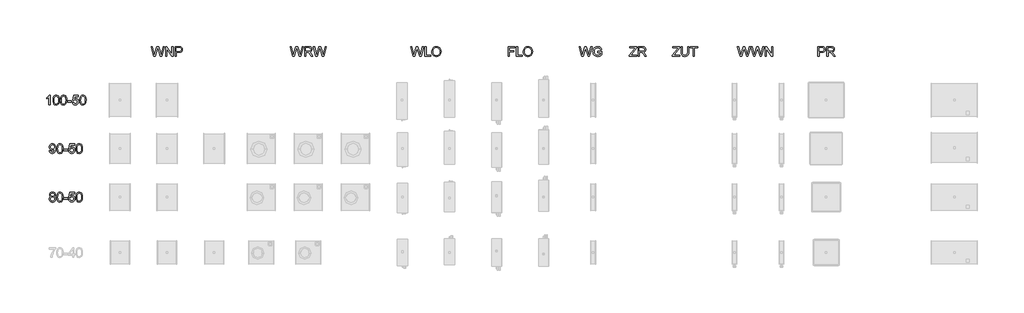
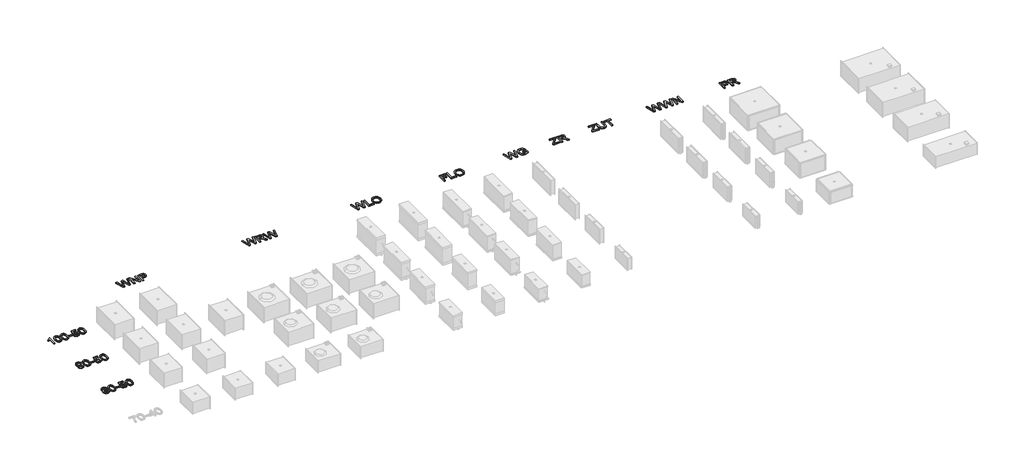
# One storey, part 6 of 9: 12 proxies.
"""IFC4 building model written with IfcOpenShell, lengths in millimetres."""

from ifc_helpers import new_model, si_unit, origin, origin_with_axes, place, context, project, spatial, polyline, outline, extrude, element, save

model = new_model("IFC4")

# Units and contexts
model_context = context("Model", 3, world=origin())
ifc_project = project(units=[si_unit("LENGTHUNIT", "METRE", prefix="MILLI")], contexts=[model_context])

# Site, building, storey
site = spatial("IfcSite", under=ifc_project)
building = spatial("IfcBuilding", under=site)
storey = spatial("IfcBuildingStorey", under=building, Name="KORF_Уровень 1", Elevation=0.0)

# Proxies
placement = place(None, origin())
element("IfcBuildingElementProxy", 1, Name="Текст модели 1", ObjectType="Текст модели 1", at=placement, inside=storey, context=model_context, shape_type="SweptSolid", body=[
    extrude(outline(polyline([(-8400.5805728, -4242.5702672), (-8482.7654105, -3941.2013368), (-8443.9170718, -3941.2013368), (-8396.2395653, -4139.269003), (-8381.5242855, -4200.4109906), (-8365.7789361, -4146.3323373), (-8306.0349001, -3941.2013368), (-8250.0432604, -3941.2013368), (-8206.633185, -4089.8992392), (-8188.0367501, -4145.0815385), (-8174.3331458, -4200.4109906), (-8160.0593244, -4141.0348365), (-8111.9403594, -3941.2013368), (-8073.0920207, -3941.2013368), (-8155.3504348, -4242.5702672), (-8195.5967251, -4242.5702672), (-8267.848749, -4010.0688463), (-8277.9287156, -3977.6216543), (-8289.2594811, -4016.6907222), (-8355.1103582, -4242.5702672), (-8400.5805728, -4242.5702672)])), origin_with_axes(), (0.0, 0.0, 1.0), 30.0),
    extrude(outline(polyline([(-8035.4209044, -4242.5702672), (-8035.4209044, -3941.2013368), (-7995.1010377, -3941.2013368), (-7837.6475438, -4179.9567516), (-7837.6475438, -3941.2013368), (-7799.9764275, -3941.2013368), (-7799.9764275, -4242.5702672), (-7840.2962942, -4242.5702672), (-7997.7497881, -4003.7412759), (-7997.7497881, -4242.5702672), (-8035.4209044, -4242.5702672)])), origin_with_axes(), (0.0, 0.0, 1.0), 30.0),
    extrude(outline(polyline([(-7734.051974, -4242.5702672), (-7734.051974, -3941.2013368), (-7622.3630002, -3941.2013368), (-7577.334244, -3944.0708163), (-7557.2570841, -3949.4326964), (-7540.7299855, -3958.1606967), (-7527.4218543, -3970.6502905), (-7517.0015968, -3987.2969508), (-7510.2693563, -4006.9326523), (-7508.0252761, -4028.3893696), (-7509.5404901, -4046.8892355), (-7514.086132, -4063.9083763), (-7521.6622018, -4079.446792), (-7532.2686996, -4093.5044828), (-7546.8299288, -4105.157145), (-7566.270193, -4113.4804751), (-7590.5894921, -4118.4744732), (-7619.7878263, -4120.1391392), (-7696.3808576, -4120.1391392), (-7696.3808576, -4242.5702672), (-7734.051974, -4242.5702672)]), holes=[polyline([(-7696.3808576, -4082.4680229), (-7617.5805343, -4082.4680229), (-7584.1768491, -4079.0099322), (-7562.1039294, -4068.6356599), (-7549.7982767, -4051.9889996), (-7545.6963924, -4029.7137448), (-7548.1152165, -4012.791173), (-7555.3716889, -3998.5173516), (-7566.5644986, -3987.7751974), (-7580.7923348, -3981.447627), (-7618.4634511, -3978.8724531), (-7696.3808576, -3978.8724531), (-7696.3808576, -4082.4680229)])]), origin_with_axes(), (0.0, 0.0, 1.0), 30.0),
])
element("IfcBuildingElementProxy", 2, Name="Текст модели 1", ObjectType="Текст модели 1", at=placement, inside=storey, context=model_context, shape_type="SweptSolid", body=[
    extrude(outline(polyline([(-4064.056761, -4242.5702672), (-4146.2415987, -3941.2013368), (-4107.39326, -3941.2013368), (-4059.7157534, -4139.269003), (-4045.0004736, -4200.4109906), (-4029.2551242, -4146.3323373), (-3969.5110882, -3941.2013368), (-3913.5194486, -3941.2013368), (-3870.1093731, -4089.8992392), (-3851.5129383, -4145.0815385), (-3837.809334, -4200.4109906), (-3823.5355125, -4141.0348365), (-3775.4165476, -3941.2013368), (-3736.5682089, -3941.2013368), (-3818.826623, -4242.5702672), (-3859.0729133, -4242.5702672), (-3931.3249371, -4010.0688463), (-3941.4049038, -3977.6216543), (-3952.7356692, -4016.6907222), (-4018.5865464, -4242.5702672), (-4064.056761, -4242.5702672)])), origin_with_axes(), (0.0, 0.0, 1.0), 30.0),
    extrude(outline(polyline([(-3698.8970926, -4242.5702672), (-3698.8970926, -3941.2013368), (-3569.0347483, -3941.2013368), (-3534.131944, -3943.2338848), (-3508.7388893, -3949.3315289), (-3490.1792426, -3960.5887179), (-3475.7766625, -3978.0999009), (-3466.5336274, -3999.8141356), (-3463.4526157, -4023.6804801), (-3468.5569783, -4053.3685571), (-3483.8700664, -4077.9798626), (-3495.4698456, -4088.0092455), (-3509.8517323, -4096.0244744), (-3546.9618286, -4106.0124706), (-3525.5510964, -4122.125702), (-3495.0168908, -4160.9004643), (-3444.7642103, -4242.5702672), (-3488.5421677, -4242.5702672), (-3527.7583884, -4180.1039044), (-3556.085302, -4138.7539682), (-3575.987718, -4119.2194342), (-3593.9035712, -4112.0457353), (-3615.7557617, -4110.7213601), (-3661.2259763, -4110.7213601), (-3661.2259763, -4242.5702672), (-3698.8970926, -4242.5702672)]), holes=[polyline([(-3661.2259763, -4073.0502438), (-3576.907423, -4073.0502438), (-3552.6915906, -4071.7166716), (-3533.9020177, -4067.7159549), (-3519.756955, -4060.7813793), (-3509.4746533, -4050.6462303), (-3503.2114623, -4038.3865628), (-3501.123732, -4025.0784317), (-3505.1060546, -4006.702726), (-3517.0530224, -3991.8954757), (-3537.6084288, -3982.1282087), (-3567.4160675, -3978.8724531), (-3661.2259763, -3978.8724531), (-3661.2259763, -4073.0502438)])]), origin_with_axes(), (0.0, 0.0, 1.0), 30.0),
    extrude(outline(polyline([(-3343.5966616, -4242.5702672), (-3425.7814994, -3941.2013368), (-3386.9331607, -3941.2013368), (-3339.2556541, -4139.269003), (-3324.5403743, -4200.4109906), (-3308.7950249, -4146.3323373), (-3249.0509889, -3941.2013368), (-3193.0593492, -3941.2013368), (-3149.6492738, -4089.8992392), (-3131.0528389, -4145.0815385), (-3117.3492346, -4200.4109906), (-3103.0754132, -4141.0348365), (-3054.9564482, -3941.2013368), (-3016.1081095, -3941.2013368), (-3098.3665236, -4242.5702672), (-3138.6128139, -4242.5702672), (-3210.8648378, -4010.0688463), (-3220.9448044, -3977.6216543), (-3232.2755699, -4016.6907222), (-3298.126447, -4242.5702672), (-3343.5966616, -4242.5702672)])), origin_with_axes(), (0.0, 0.0, 1.0), 30.0),
])
element("IfcBuildingElementProxy", 3, Name="Текст модели 1", ObjectType="Текст модели 1", at=placement, inside=storey, context=model_context, shape_type="SweptSolid", body=[
    extrude(outline(polyline([(-11635.0267426, -5756.5510747), (-11672.6978589, -5756.5510747), (-11672.6978589, -5521.695209), (-11708.3824125, -5547.1158549), (-11748.0400915, -5566.135354), (-11748.0400915, -5530.5243769), (-11718.4531821, -5514.4295396), (-11692.8210041, -5495.2812817), (-11672.6150855, -5474.9190133), (-11659.3069543, -5455.1821443), (-11635.0267426, -5455.1821443), (-11635.0267426, -5756.5510747)])), origin_with_axes(), (0.0, 0.0, 1.0), 30.0),
    extrude(outline(polyline([(-11545.5578414, -5608.2946307), (-11542.7895294, -5560.056104), (-11534.4845933, -5521.5848444), (-11520.7258067, -5492.2922405), (-11501.595943, -5471.5896813), (-11476.9570463, -5459.2840285), (-11446.6711611, -5455.1821443), (-11423.4578072, -5457.6101654), (-11402.6724745, -5464.8942289), (-11385.2900502, -5476.7492262), (-11372.2854217, -5492.8900488), (-11362.4629724, -5513.1787408), (-11354.6270859, -5537.4773466), (-11349.4951321, -5568.3334489), (-11347.7844808, -5608.2946307), (-11350.5252016, -5656.2572458), (-11358.7473642, -5694.6365349), (-11372.4233774, -5723.9567299), (-11391.52565, -5744.7420627), (-11416.2197289, -5757.1304889), (-11446.6711611, -5761.2599643), (-11467.4197056, -5759.4665395), (-11485.8138054, -5754.0862653), (-11501.8534604, -5745.1191417), (-11515.5386706, -5732.5651686), (-11528.6720578, -5709.8714481), (-11538.0530487, -5681.5951182), (-11543.6816432, -5647.7361791), (-11545.5578414, -5608.2946307)]), holes=[polyline([(-11507.8867251, -5608.2210543), (-11503.4721411, -5667.4776466), (-11497.9539112, -5687.7456453), (-11490.2283893, -5701.7734456), (-11470.5099144, -5718.1349974), (-11446.6711611, -5723.5888479), (-11422.8324078, -5718.1166033), (-11403.1139329, -5701.6998692), (-11395.388411, -5687.6490763), (-11389.870181, -5667.3856761), (-11385.4555971, -5608.2210543), (-11389.7230282, -5550.2980341), (-11395.0573172, -5530.0967141), (-11402.5253217, -5515.7355207), (-11422.2070084, -5498.5738256), (-11447.1126195, -5492.8532606), (-11470.6938554, -5497.8932439), (-11489.6397781, -5513.0131939), (-11497.6228174, -5528.6481787), (-11503.3249883, -5549.727817), (-11507.8867251, -5608.2210543)])]), origin_with_axes(), (0.0, 0.0, 1.0), 30.0),
    extrude(outline(polyline([(-11314.822254, -5608.2946307), (-11312.053942, -5560.056104), (-11303.749006, -5521.5848444), (-11289.9902193, -5492.2922405), (-11270.8603556, -5471.5896813), (-11246.221459, -5459.2840285), (-11215.9355737, -5455.1821443), (-11192.7222198, -5457.6101654), (-11171.9368871, -5464.8942289), (-11154.5544628, -5476.7492262), (-11141.5498343, -5492.8900488), (-11131.727385, -5513.1787408), (-11123.8914985, -5537.4773466), (-11118.7595447, -5568.3334489), (-11117.0488934, -5608.2946307), (-11119.7896143, -5656.2572458), (-11128.0117769, -5694.6365349), (-11141.68779, -5723.9567299), (-11160.7900626, -5744.7420627), (-11185.4841416, -5757.1304889), (-11215.9355737, -5761.2599643), (-11236.6841182, -5759.4665395), (-11255.078218, -5754.0862653), (-11271.117873, -5745.1191417), (-11284.8030832, -5732.5651686), (-11297.9364704, -5709.8714481), (-11307.3174613, -5681.5951182), (-11312.9460558, -5647.7361791), (-11314.822254, -5608.2946307)]), holes=[polyline([(-11277.1511377, -5608.2210543), (-11272.7365538, -5667.4776466), (-11267.2183238, -5687.7456453), (-11259.4928019, -5701.7734456), (-11239.774327, -5718.1349974), (-11215.9355737, -5723.5888479), (-11192.0968204, -5718.1166033), (-11172.3783455, -5701.6998692), (-11164.6528236, -5687.6490763), (-11159.1345937, -5667.3856761), (-11154.7200097, -5608.2210543), (-11158.9874409, -5550.2980341), (-11164.3217298, -5530.0967141), (-11171.7897343, -5515.7355207), (-11191.471421, -5498.5738256), (-11216.3770321, -5492.8532606), (-11239.958268, -5497.8932439), (-11258.9041907, -5513.0131939), (-11266.88723, -5528.6481787), (-11272.589401, -5549.727817), (-11277.1511377, -5608.2210543)])]), origin_with_axes(), (0.0, 0.0, 1.0), 30.0),
    extrude(outline(polyline([(-11093.5044457, -5667.0821735), (-11093.5044457, -5629.4110572), (-10975.7822073, -5629.4110572), (-10975.7822073, -5667.0821735), (-11093.5044457, -5667.0821735)])), origin_with_axes(), (0.0, 0.0, 1.0), 30.0),
    extrude(outline(polyline([(-10942.8199805, -5676.4999526), (-10905.1488642, -5671.791063), (-10898.2326827, -5694.4066087), (-10886.1661532, -5710.6026135), (-10869.0044582, -5720.3422893), (-10846.8027798, -5723.5888479), (-10819.8002413, -5719.0730965), (-10799.5667316, -5705.525842), (-10786.929985, -5684.510583), (-10782.7177362, -5657.590818), (-10786.6632706, -5632.2437485), (-10798.4998738, -5612.8563674), (-10818.3195163, -5600.5507147), (-10846.2141686, -5596.4488304), (-10864.4887067, -5598.0859053), (-10879.2867599, -5602.9971299), (-10900.4399746, -5619.9932781), (-10938.111091, -5615.2843886), (-10905.1488642, -5459.8910338), (-10759.1732885, -5459.8910338), (-10759.1732885, -5497.5621501), (-10874.688235, -5497.5621501), (-10890.8014664, -5580.5563282), (-10863.8908984, -5564.2223676), (-10835.6927435, -5558.7777141), (-10817.3469283, -5560.4653728), (-10800.4956336, -5565.5283487), (-10785.1388596, -5573.966642), (-10771.2766061, -5585.7802526), (-10759.8009872, -5600.247212), (-10751.6041164, -5616.645552), (-10746.685994, -5634.9752724), (-10745.0466199, -5655.2363732), (-10750.9511259, -5692.9074896), (-10758.3317584, -5709.7013026), (-10768.664644, -5725.1339523), (-10784.3180229, -5740.9390825), (-10802.5833639, -5752.2284613), (-10823.4606672, -5759.0020885), (-10846.9499325, -5761.2599643), (-10883.9496642, -5755.4566258), (-10899.628335, -5748.2024527), (-10913.4262091, -5738.0466104), (-10924.9064266, -5725.4949365), (-10933.6321277, -5711.053269), (-10942.8199805, -5676.4999526)])), origin_with_axes(), (0.0, 0.0, 1.0), 30.0),
    extrude(outline(polyline([(-10712.0843931, -5608.2946307), (-10709.3160811, -5560.056104), (-10701.0111451, -5521.5848444), (-10687.2523584, -5492.2922405), (-10668.1224947, -5471.5896813), (-10643.4835981, -5459.2840285), (-10613.1977128, -5455.1821443), (-10589.9843589, -5457.6101654), (-10569.1990262, -5464.8942289), (-10551.8166019, -5476.7492262), (-10538.8119734, -5492.8900488), (-10528.9895241, -5513.1787408), (-10521.1536376, -5537.4773466), (-10516.0216838, -5568.3334489), (-10514.3110325, -5608.2946307), (-10517.0517534, -5656.2572458), (-10525.273916, -5694.6365349), (-10538.9499291, -5723.9567299), (-10558.0522017, -5744.7420627), (-10582.7462807, -5757.1304889), (-10613.1977128, -5761.2599643), (-10633.9462573, -5759.4665395), (-10652.3403571, -5754.0862653), (-10668.3800121, -5745.1191417), (-10682.0652223, -5732.5651686), (-10695.1986095, -5709.8714481), (-10704.5796004, -5681.5951182), (-10710.2081949, -5647.7361791), (-10712.0843931, -5608.2946307)]), holes=[polyline([(-10674.4132768, -5608.2210543), (-10669.9986929, -5667.4776466), (-10664.4804629, -5687.7456453), (-10656.754941, -5701.7734456), (-10637.0364661, -5718.1349974), (-10613.1977128, -5723.5888479), (-10589.3589595, -5718.1166033), (-10569.6404846, -5701.6998692), (-10561.9149627, -5687.6490763), (-10556.3967328, -5667.3856761), (-10551.9821488, -5608.2210543), (-10556.24958, -5550.2980341), (-10561.5838689, -5530.0967141), (-10569.0518734, -5515.7355207), (-10588.7335601, -5498.5738256), (-10613.6391712, -5492.8532606), (-10637.2204071, -5497.8932439), (-10656.1663299, -5513.0131939), (-10664.1493691, -5528.6481787), (-10669.8515401, -5549.727817), (-10674.4132768, -5608.2210543)])]), origin_with_axes(), (0.0, 0.0, 1.0), 30.0),
])
element("IfcBuildingElementProxy", 4, Name="Текст модели 1", ObjectType="Текст модели 1", at=placement, inside=storey, context=model_context, shape_type="SweptSolid", body=[
    extrude(outline(polyline([(-11656.2167455, -7195.1896496), (-11618.5456292, -7190.4807601), (-11612.1076943, -7211.863901), (-11601.6230575, -7226.422831), (-11587.349236, -7234.7829493), (-11569.5437475, -7237.5696554), (-11553.5684718, -7235.7762307), (-11539.0463301, -7230.3959565), (-11526.9798006, -7222.0174441), (-11518.3713619, -7211.2293046), (-11506.0473151, -7178.487807), (-11500.6026616, -7134.783426), (-11500.8233908, -7127.4257861), (-11513.8740046, -7143.3550765), (-11530.9529262, -7155.9734289), (-11550.827751, -7164.1955915), (-11572.2660742, -7166.9363124), (-11590.161234, -7165.2624493), (-11606.6170555, -7160.2408601), (-11621.6335387, -7151.8715447), (-11635.2106836, -7140.1545031), (-11646.4609749, -7125.7013392), (-11654.4968972, -7109.1236568), (-11659.3184506, -7090.4214559), (-11660.9256351, -7069.5947365), (-11659.2402757, -7048.0736397), (-11654.1841975, -7028.759835), (-11645.7574006, -7011.6533222), (-11633.9598848, -6996.7541014), (-11619.6239833, -6984.6829734), (-11603.5820291, -6976.0607392), (-11585.8340221, -6970.8873986), (-11566.3799623, -6969.1629518), (-11538.2829749, -6973.0992891), (-11512.7059792, -6984.9083012), (-11491.3136412, -7004.0013767), (-11475.7706269, -7029.7899046), (-11466.3068626, -7065.4376699), (-11463.1522745, -7114.1084579), (-11466.2976655, -7165.7131047), (-11475.7338387, -7205.6007101), (-11491.3780206, -7235.5738956), (-11513.1474376, -7257.4352832), (-11540.1039908, -7270.7893996), (-11571.3095811, -7275.2407718), (-11603.5176497, -7269.9892563), (-11629.2142071, -7254.2347098), (-11647.1852426, -7228.9704138), (-11656.2167455, -7195.1896496)]), holes=[polyline([(-11500.8233908, -7068.7118197), (-11504.8884868, -7043.1808092), (-11517.083775, -7023.5359107), (-11536.0113036, -7011.0095287), (-11560.2731212, -7006.8340681), (-11585.4362497, -7011.3314255), (-11605.596183, -7024.8234976), (-11618.8399348, -7045.4708746), (-11623.2545188, -7071.4341464), (-11619.0790581, -7094.7118797), (-11606.5526762, -7113.1887529), (-11586.8893835, -7125.2460853), (-11561.3031908, -7129.2651961), (-11537.2345112, -7125.2460853), (-11517.8563272, -7113.1887529), (-11505.0816249, -7094.031298), (-11500.8233908, -7068.7118197)])]), origin_with_axes(), (0.0, 0.0, 1.0), 30.0),
    extrude(outline(polyline([(-11430.1900477, -7122.2754382), (-11427.4217357, -7074.0369115), (-11419.1167996, -7035.5656519), (-11405.358013, -7006.273048), (-11386.2281493, -6985.5704888), (-11361.5892527, -6973.264836), (-11331.3033674, -6969.1629518), (-11308.0900135, -6971.5909729), (-11287.3046808, -6978.8750364), (-11269.9222565, -6990.7300337), (-11256.917628, -7006.8708563), (-11247.0951787, -7027.1595483), (-11239.2592922, -7051.4581541), (-11234.1273384, -7082.3142564), (-11232.4166871, -7122.2754382), (-11235.157408, -7170.2380533), (-11243.3795706, -7208.6173424), (-11257.0555837, -7237.9375374), (-11276.1578563, -7258.7228702), (-11300.8519352, -7271.1112964), (-11331.3033674, -7275.2407718), (-11352.0519119, -7273.447347), (-11370.4460117, -7268.0670728), (-11386.4856667, -7259.0999492), (-11400.1708769, -7246.5459761), (-11413.3042641, -7223.8522556), (-11422.685255, -7195.5759257), (-11428.3138495, -7161.7169866), (-11430.1900477, -7122.2754382)]), holes=[polyline([(-11392.5189314, -7122.2018618), (-11388.1043475, -7181.4584541), (-11382.5861175, -7201.7264528), (-11374.8605956, -7215.7542531), (-11355.1421207, -7232.1158049), (-11331.3033674, -7237.5696554), (-11307.4646141, -7232.0974108), (-11287.7461392, -7215.6806767), (-11280.0206173, -7201.6298838), (-11274.5023873, -7181.3664836), (-11270.0878034, -7122.2018618), (-11274.3552345, -7064.2788416), (-11279.6895235, -7044.0775216), (-11287.157528, -7029.7163282), (-11306.8392147, -7012.5546331), (-11331.7448258, -7006.8340681), (-11355.3260617, -7011.8740514), (-11374.2719844, -7026.9940014), (-11382.2550237, -7042.6289862), (-11387.9571947, -7063.7086245), (-11392.5189314, -7122.2018618)])]), origin_with_axes(), (0.0, 0.0, 1.0), 30.0),
    extrude(outline(polyline([(-11208.8722394, -7181.062981), (-11208.8722394, -7143.3918647), (-11091.1500009, -7143.3918647), (-11091.1500009, -7181.062981), (-11208.8722394, -7181.062981)])), origin_with_axes(), (0.0, 0.0, 1.0), 30.0),
    extrude(outline(polyline([(-11058.1877742, -7190.4807601), (-11020.5166579, -7185.7718705), (-11013.6004764, -7208.3874162), (-11001.5339469, -7224.583421), (-10984.3722518, -7234.3230968), (-10962.1705734, -7237.5696554), (-10935.168035, -7233.053904), (-10914.9345253, -7219.5066495), (-10902.2977787, -7198.4913905), (-10898.0855299, -7171.5716255), (-10902.0310643, -7146.224556), (-10913.8676675, -7126.8371749), (-10933.68731, -7114.5315222), (-10961.5819622, -7110.4296379), (-10979.8565004, -7112.0667128), (-10994.6545536, -7116.9779374), (-11015.8077683, -7133.9740856), (-11053.4788846, -7129.2651961), (-11020.5166579, -6973.8718413), (-10874.5410822, -6973.8718413), (-10874.5410822, -7011.5429576), (-10990.0560287, -7011.5429576), (-11006.1692601, -7094.5371357), (-10979.2586921, -7078.2031751), (-10951.0605372, -7072.7585216), (-10932.7147219, -7074.4461803), (-10915.8634273, -7079.5091562), (-10900.5066533, -7087.9474495), (-10886.6443998, -7099.7610601), (-10875.1687808, -7114.2280195), (-10866.9719101, -7130.6263595), (-10862.0537877, -7148.9560799), (-10860.4144136, -7169.2171807), (-10866.3189196, -7206.8882971), (-10873.6995521, -7223.6821101), (-10884.0324377, -7239.1147598), (-10899.6858166, -7254.91989), (-10917.9511576, -7266.2092688), (-10938.8284608, -7272.982896), (-10962.3177262, -7275.2407718), (-10999.3174579, -7269.4374333), (-11014.9961287, -7262.1832602), (-11028.7940028, -7252.0274179), (-11040.2742203, -7239.475744), (-11048.9999214, -7225.0340765), (-11058.1877742, -7190.4807601)])), origin_with_axes(), (0.0, 0.0, 1.0), 30.0),
    extrude(outline(polyline([(-10827.4521868, -7122.2754382), (-10824.6838748, -7074.0369115), (-10816.3789388, -7035.5656519), (-10802.6201521, -7006.273048), (-10783.4902884, -6985.5704888), (-10758.8513918, -6973.264836), (-10728.5655065, -6969.1629518), (-10705.3521526, -6971.5909729), (-10684.5668199, -6978.8750364), (-10667.1843956, -6990.7300337), (-10654.1797671, -7006.8708563), (-10644.3573178, -7027.1595483), (-10636.5214313, -7051.4581541), (-10631.3894775, -7082.3142564), (-10629.6788262, -7122.2754382), (-10632.4195471, -7170.2380533), (-10640.6417097, -7208.6173424), (-10654.3177228, -7237.9375374), (-10673.4199954, -7258.7228702), (-10698.1140744, -7271.1112964), (-10728.5655065, -7275.2407718), (-10749.314051, -7273.447347), (-10767.7081508, -7268.0670728), (-10783.7478058, -7259.0999492), (-10797.433016, -7246.5459761), (-10810.5664032, -7223.8522556), (-10819.9473941, -7195.5759257), (-10825.5759886, -7161.7169866), (-10827.4521868, -7122.2754382)]), holes=[polyline([(-10789.7810705, -7122.2018618), (-10785.3664866, -7181.4584541), (-10779.8482566, -7201.7264528), (-10772.1227347, -7215.7542531), (-10752.4042598, -7232.1158049), (-10728.5655065, -7237.5696554), (-10704.7267532, -7232.0974108), (-10685.0082783, -7215.6806767), (-10677.2827564, -7201.6298838), (-10671.7645264, -7181.3664836), (-10667.3499425, -7122.2018618), (-10671.6173736, -7064.2788416), (-10676.9516626, -7044.0775216), (-10684.4196671, -7029.7163282), (-10704.1013538, -7012.5546331), (-10729.0069649, -7006.8340681), (-10752.5882008, -7011.8740514), (-10771.5341235, -7026.9940014), (-10779.5171628, -7042.6289862), (-10785.2193338, -7063.7086245), (-10789.7810705, -7122.2018618)])]), origin_with_axes(), (0.0, 0.0, 1.0), 30.0),
])
element("IfcBuildingElementProxy", 5, Name="Текст модели 1", ObjectType="Текст модели 1", at=placement, inside=storey, context=model_context, shape_type="SweptSolid", body=[
    extrude(outline(polyline([(-11606.0376414, -8618.5243335), (-11626.2067718, -8608.5915196), (-11640.3610315, -8595.1270386), (-11648.7211499, -8578.4068019), (-11651.507856, -8558.7067211), (-11649.9903428, -8543.3430493), (-11645.4378031, -8529.2577674), (-11637.8502369, -8516.4508754), (-11627.2276443, -8504.9223734), (-11614.0804615, -8495.3942297), (-11598.9191248, -8488.5884128), (-11562.5539896, -8483.1437593), (-11525.9681251, -8488.7171715), (-11510.6412415, -8495.6839368), (-11497.2917236, -8505.4374082), (-11486.475993, -8517.1912379), (-11478.7504711, -8530.1590783), (-11474.1151579, -8544.3409292), (-11472.5700535, -8559.7367907), (-11475.3199715, -8578.8022751), (-11483.5697252, -8595.2374032), (-11497.4112853, -8608.6191108), (-11516.9366222, -8618.5243335), (-11493.7508594, -8630.4713013), (-11476.8742729, -8648.0652577), (-11466.5827741, -8670.4600742), (-11463.1522745, -8696.8096221), (-11464.8537287, -8715.599195), (-11469.9580914, -8732.8252694), (-11478.4653625, -8748.4878453), (-11490.3755421, -8762.5869228), (-11505.0632308, -8774.239585), (-11521.9030291, -8782.5629151), (-11540.8949371, -8787.5569132), (-11562.0389548, -8789.2215793), (-11583.1829724, -8787.5500154), (-11602.1748804, -8782.535324), (-11619.0146788, -8774.1775049), (-11633.7023674, -8762.4765582), (-11645.612547, -8748.2786125), (-11654.1198182, -8732.4297962), (-11659.2241809, -8714.9301096), (-11660.9256351, -8695.7795525), (-11657.3571797, -8668.409132), (-11646.6518137, -8645.8947539), (-11629.3613599, -8629.0089704), (-11606.0376414, -8618.5243335)]), holes=[polyline([(-11613.8367397, -8559.8103671), (-11610.4982106, -8576.2546922), (-11600.4826233, -8589.3880795), (-11584.0842833, -8597.9965182), (-11561.5974964, -8600.8659977), (-11539.6349413, -8598.0149123), (-11523.4849217, -8589.4616559), (-11513.5521078, -8576.769727), (-11510.2411699, -8561.5026242), (-11513.6624724, -8545.6561073), (-11523.9263801, -8532.5503112), (-11540.2971289, -8523.7487345), (-11562.0389548, -8520.8148756), (-11583.9187364, -8523.6843551), (-11600.2618941, -8532.2927938), (-11610.4430283, -8544.9111463), (-11613.8367397, -8559.8103671)]), polyline([(-11623.2545188, -8694.4551773), (-11616.9637367, -8722.8188791), (-11608.2541304, -8734.9865761), (-11594.7068759, -8744.0456702), (-11578.48328, -8749.6742648), (-11561.7446492, -8751.5504629), (-11536.1032741, -8747.6049286), (-11516.8630458, -8735.7683254), (-11504.8333045, -8717.8432751), (-11500.8233908, -8695.6323997), (-11504.9620632, -8673.0444452), (-11517.3780806, -8654.7239218), (-11537.0597673, -8642.583816), (-11562.995448, -8638.537114), (-11588.2781381, -8642.5286337), (-11607.3252284, -8654.5031926), (-11619.2721962, -8672.4742281), (-11623.2545188, -8694.4551773)])]), origin_with_axes(), (0.0, 0.0, 1.0), 30.0),
    extrude(outline(polyline([(-11430.1900477, -8636.2562457), (-11427.4217357, -8588.017719), (-11419.1167996, -8549.5464594), (-11405.358013, -8520.2538555), (-11386.2281493, -8499.5512963), (-11361.5892527, -8487.2456435), (-11331.3033674, -8483.1437593), (-11308.0900135, -8485.5717804), (-11287.3046808, -8492.8558439), (-11269.9222565, -8504.7108412), (-11256.917628, -8520.8516638), (-11247.0951787, -8541.1403558), (-11239.2592922, -8565.4389616), (-11234.1273384, -8596.2950639), (-11232.4166871, -8636.2562457), (-11235.157408, -8684.2188608), (-11243.3795706, -8722.5981499), (-11257.0555837, -8751.9183449), (-11276.1578563, -8772.7036777), (-11300.8519352, -8785.0921039), (-11331.3033674, -8789.2215793), (-11352.0519119, -8787.4281545), (-11370.4460117, -8782.0478803), (-11386.4856667, -8773.0807567), (-11400.1708769, -8760.5267836), (-11413.3042641, -8737.8330631), (-11422.685255, -8709.5567332), (-11428.3138495, -8675.6977941), (-11430.1900477, -8636.2562457)]), holes=[polyline([(-11392.5189314, -8636.1826693), (-11388.1043475, -8695.4392616), (-11382.5861175, -8715.7072603), (-11374.8605956, -8729.7350606), (-11355.1421207, -8746.0966124), (-11331.3033674, -8751.5504629), (-11307.4646141, -8746.0782183), (-11287.7461392, -8729.6614842), (-11280.0206173, -8715.6106913), (-11274.5023873, -8695.3472911), (-11270.0878034, -8636.1826693), (-11274.3552345, -8578.2596491), (-11279.6895235, -8558.0583291), (-11287.157528, -8543.6971357), (-11306.8392147, -8526.5354406), (-11331.7448258, -8520.8148756), (-11355.3260617, -8525.8548589), (-11374.2719844, -8540.9748089), (-11382.2550237, -8556.6097937), (-11387.9571947, -8577.689432), (-11392.5189314, -8636.1826693)])]), origin_with_axes(), (0.0, 0.0, 1.0), 30.0),
    extrude(outline(polyline([(-11208.8722394, -8695.0437885), (-11208.8722394, -8657.3726722), (-11091.1500009, -8657.3726722), (-11091.1500009, -8695.0437885), (-11208.8722394, -8695.0437885)])), origin_with_axes(), (0.0, 0.0, 1.0), 30.0),
    extrude(outline(polyline([(-11058.1877742, -8704.4615676), (-11020.5166579, -8699.752678), (-11013.6004764, -8722.3682237), (-11001.5339469, -8738.5642285), (-10984.3722518, -8748.3039043), (-10962.1705734, -8751.5504629), (-10935.168035, -8747.0347115), (-10914.9345253, -8733.487457), (-10902.2977787, -8712.472198), (-10898.0855299, -8685.552433), (-10902.0310643, -8660.2053635), (-10913.8676675, -8640.8179824), (-10933.68731, -8628.5123297), (-10961.5819622, -8624.4104454), (-10979.8565004, -8626.0475203), (-10994.6545536, -8630.9587449), (-11015.8077683, -8647.9548931), (-11053.4788846, -8643.2460036), (-11020.5166579, -8487.8526488), (-10874.5410822, -8487.8526488), (-10874.5410822, -8525.5237651), (-10990.0560287, -8525.5237651), (-11006.1692601, -8608.5179432), (-10979.2586921, -8592.1839826), (-10951.0605372, -8586.7393291), (-10932.7147219, -8588.4269878), (-10915.8634273, -8593.4899637), (-10900.5066533, -8601.928257), (-10886.6443998, -8613.7418676), (-10875.1687808, -8628.208827), (-10866.9719101, -8644.607167), (-10862.0537877, -8662.9368874), (-10860.4144136, -8683.1979882), (-10866.3189196, -8720.8691046), (-10873.6995521, -8737.6629176), (-10884.0324377, -8753.0955673), (-10899.6858166, -8768.9006975), (-10917.9511576, -8780.1900763), (-10938.8284608, -8786.9637035), (-10962.3177262, -8789.2215793), (-10999.3174579, -8783.4182408), (-11014.9961287, -8776.1640677), (-11028.7940028, -8766.0082254), (-11040.2742203, -8753.4565515), (-11048.9999214, -8739.014884), (-11058.1877742, -8704.4615676)])), origin_with_axes(), (0.0, 0.0, 1.0), 30.0),
    extrude(outline(polyline([(-10827.4521868, -8636.2562457), (-10824.6838748, -8588.017719), (-10816.3789388, -8549.5464594), (-10802.6201521, -8520.2538555), (-10783.4902884, -8499.5512963), (-10758.8513918, -8487.2456435), (-10728.5655065, -8483.1437593), (-10705.3521526, -8485.5717804), (-10684.5668199, -8492.8558439), (-10667.1843956, -8504.7108412), (-10654.1797671, -8520.8516638), (-10644.3573178, -8541.1403558), (-10636.5214313, -8565.4389616), (-10631.3894775, -8596.2950639), (-10629.6788262, -8636.2562457), (-10632.4195471, -8684.2188608), (-10640.6417097, -8722.5981499), (-10654.3177228, -8751.9183449), (-10673.4199954, -8772.7036777), (-10698.1140744, -8785.0921039), (-10728.5655065, -8789.2215793), (-10749.314051, -8787.4281545), (-10767.7081508, -8782.0478803), (-10783.7478058, -8773.0807567), (-10797.433016, -8760.5267836), (-10810.5664032, -8737.8330631), (-10819.9473941, -8709.5567332), (-10825.5759886, -8675.6977941), (-10827.4521868, -8636.2562457)]), holes=[polyline([(-10789.7810705, -8636.1826693), (-10785.3664866, -8695.4392616), (-10779.8482566, -8715.7072603), (-10772.1227347, -8729.7350606), (-10752.4042598, -8746.0966124), (-10728.5655065, -8751.5504629), (-10704.7267532, -8746.0782183), (-10685.0082783, -8729.6614842), (-10677.2827564, -8715.6106913), (-10671.7645264, -8695.3472911), (-10667.3499425, -8636.1826693), (-10671.6173736, -8578.2596491), (-10676.9516626, -8558.0583291), (-10684.4196671, -8543.6971357), (-10704.1013538, -8526.5354406), (-10729.0069649, -8520.8148756), (-10752.5882008, -8525.8548589), (-10771.5341235, -8540.9748089), (-10779.5171628, -8556.6097937), (-10785.2193338, -8577.689432), (-10789.7810705, -8636.1826693)])]), origin_with_axes(), (0.0, 0.0, 1.0), 30.0),
])
element("IfcBuildingElementProxy", 6, Name="Текст модели 1", ObjectType="Текст модели 1", at=placement, inside=storey, context=model_context, shape_type="SweptSolid", body=[
    extrude(outline(polyline([(-309.0202316, -4242.5702672), (-391.2050694, -3941.2013368), (-352.3567307, -3941.2013368), (-304.6792241, -4139.269003), (-289.9639443, -4200.4109906), (-274.2185949, -4146.3323373), (-214.4745589, -3941.2013368), (-158.4829192, -3941.2013368), (-115.0728438, -4089.8992392), (-96.4764089, -4145.0815385), (-82.7728046, -4200.4109906), (-68.4989832, -4141.0348365), (-20.3800182, -3941.2013368), (18.4683205, -3941.2013368), (-63.7900937, -4242.5702672), (-104.0363839, -4242.5702672), (-176.2884078, -4010.0688463), (-186.3683745, -3977.6216543), (-197.6991399, -4016.6907222), (-263.550017, -4242.5702672), (-309.0202316, -4242.5702672)])), origin_with_axes(), (0.0, 0.0, 1.0), 30.0),
    extrude(outline(polyline([(56.1394368, -4242.5702672), (56.1394368, -3941.2013368), (93.8105531, -3941.2013368), (93.8105531, -4204.8991509), (244.4950183, -4204.8991509), (244.4950183, -4242.5702672), (56.1394368, -4242.5702672)])), origin_with_axes(), (0.0, 0.0, 1.0), 30.0),
    extrude(outline(polyline([(272.7483555, -4095.8589275), (275.2591501, -4060.5100663), (282.791534, -4029.2171041), (295.3455071, -4001.9800409), (312.9210694, -3978.7988767), (334.4651587, -3960.2898138), (358.9247129, -3947.0690546), (386.2997319, -3939.1365991), (416.5902156, -3936.4924472), (456.119136, -3941.4588542), (491.5645663, -3956.358075), (520.9951259, -3980.141646), (542.4794344, -4011.7611034), (555.6128216, -4049.6897371), (559.9906174, -4092.4008368), (555.3828954, -4135.6821535), (541.5597294, -4174.1442161), (519.2844746, -4205.8188559), (489.3204861, -4228.7379042), (454.1785585, -4242.6438436), (416.3694864, -4247.2791568), (376.2335608, -4242.1564), (340.5857954, -4226.7881296), (311.2288122, -4202.5631002), (289.9652329, -4170.8700664), (277.0525749, -4134.4037636), (272.7483555, -4095.8589275)]), holes=[polyline([(310.4194718, -4096.2268095), (312.3025678, -4121.2013985), (317.9518557, -4143.3708872), (327.3673355, -4162.7352757), (340.5490072, -4179.294564), (356.5725674, -4192.55671), (374.5137124, -4202.0296713), (394.3724424, -4207.7134482), (416.1487572, -4209.6080404), (438.2975526, -4207.6950541), (458.3908073, -4201.9560949), (476.4285214, -4192.3911631), (492.4106948, -4179.0002584), (505.4957976, -4162.0914822), (514.8422995, -4141.9729356), (520.4502007, -4118.6446186), (522.3195011, -4092.1065312), (519.1189277, -4058.7580283), (509.5172076, -4029.934474), (493.7626612, -4006.3624352), (472.1036087, -3988.7684787), (445.97479, -3977.8147923), (416.8109448, -3974.1635635), (395.7910873, -3975.9224993), (376.2887431, -3981.1993067), (358.303912, -3989.9939856), (341.8365942, -4002.3065362), (328.0916032, -4018.730168), (318.2737524, -4039.8580908), (312.383042, -4065.6903047), (310.4194718, -4096.2268095)])]), origin_with_axes(), (0.0, 0.0, 1.0), 30.0),
])
element("IfcBuildingElementProxy", 7, Name="Текст модели 1", ObjectType="Текст модели 1", at=placement, inside=storey, context=model_context, shape_type="SweptSolid", body=[
    extrude(outline(polyline([(2657.5586047, -4242.5702672), (2657.5586047, -3941.2013368), (2860.0408549, -3941.2013368), (2860.0408549, -3978.8724531), (2695.229721, -3978.8724531), (2695.229721, -4068.3413543), (2836.4964072, -4068.3413543), (2836.4964072, -4106.0124706), (2695.229721, -4106.0124706), (2695.229721, -4242.5702672), (2657.5586047, -4242.5702672)])), origin_with_axes(), (0.0, 0.0, 1.0), 30.0),
    extrude(outline(polyline([(2911.8386398, -4242.5702672), (2911.8386398, -3941.2013368), (2949.5097561, -3941.2013368), (2949.5097561, -4204.8991509), (3100.1942213, -4204.8991509), (3100.1942213, -4242.5702672), (2911.8386398, -4242.5702672)])), origin_with_axes(), (0.0, 0.0, 1.0), 30.0),
    extrude(outline(polyline([(3128.4475585, -4095.8589275), (3130.9583532, -4060.5100663), (3138.490737, -4029.2171041), (3151.0447101, -4001.9800409), (3168.6202724, -3978.7988767), (3190.1643618, -3960.2898138), (3214.6239159, -3947.0690546), (3241.9989349, -3939.1365991), (3272.2894187, -3936.4924472), (3311.818339, -3941.4588542), (3347.2637693, -3956.358075), (3376.6943289, -3980.141646), (3398.1786374, -4011.7611034), (3411.3120246, -4049.6897371), (3415.6898204, -4092.4008368), (3411.0820984, -4135.6821535), (3397.2589324, -4174.1442161), (3374.9836776, -4205.8188559), (3345.0196891, -4228.7379042), (3309.8777615, -4242.6438436), (3272.0686895, -4247.2791568), (3231.9327638, -4242.1564), (3196.2849984, -4226.7881296), (3166.9280152, -4202.5631002), (3145.6644359, -4170.8700664), (3132.7517779, -4134.4037636), (3128.4475585, -4095.8589275)]), holes=[polyline([(3166.1186748, -4096.2268095), (3168.0017708, -4121.2013985), (3173.6510587, -4143.3708872), (3183.0665385, -4162.7352757), (3196.2482102, -4179.294564), (3212.2717704, -4192.55671), (3230.2129155, -4202.0296713), (3250.0716454, -4207.7134482), (3271.8479603, -4209.6080404), (3293.9967556, -4207.6950541), (3314.0900104, -4201.9560949), (3332.1277244, -4192.3911631), (3348.1098979, -4179.0002584), (3361.1950006, -4162.0914822), (3370.5415025, -4141.9729356), (3376.1494037, -4118.6446186), (3378.0187041, -4092.1065312), (3374.8181307, -4058.7580283), (3365.2164106, -4029.934474), (3349.4618642, -4006.3624352), (3327.8028117, -3988.7684787), (3301.673993, -3977.8147923), (3272.5101478, -3974.1635635), (3251.4902903, -3975.9224993), (3231.9879461, -3981.1993067), (3214.003115, -3989.9939856), (3197.5357972, -4002.3065362), (3183.7908062, -4018.730168), (3173.9729554, -4039.8580908), (3168.082245, -4065.6903047), (3166.1186748, -4096.2268095)])]), origin_with_axes(), (0.0, 0.0, 1.0), 30.0),
])
element("IfcBuildingElementProxy", 8, Name="Текст модели 1", ObjectType="Текст модели 1", at=placement, inside=storey, context=model_context, shape_type="SweptSolid", body=[
    extrude(outline(polyline([(4948.0309094, -4242.5702672), (4865.8460717, -3941.2013368), (4904.6944104, -3941.2013368), (4952.371917, -4139.269003), (4967.0871968, -4200.4109906), (4982.8325462, -4146.3323373), (5042.5765822, -3941.2013368), (5098.5682218, -3941.2013368), (5141.9782973, -4089.8992392), (5160.5747321, -4145.0815385), (5174.2783365, -4200.4109906), (5188.5521579, -4141.0348365), (5236.6711228, -3941.2013368), (5275.5194615, -3941.2013368), (5193.2610474, -4242.5702672), (5153.0147571, -4242.5702672), (5080.7627333, -4010.0688463), (5070.6827666, -3977.6216543), (5059.3520012, -4016.6907222), (4993.501124, -4242.5702672), (4948.0309094, -4242.5702672)])), origin_with_axes(), (0.0, 0.0, 1.0), 30.0),
    extrude(outline(polyline([(5454.457264, -4124.8480288), (5454.457264, -4087.1769125), (5576.888392, -4087.1769125), (5576.888392, -4199.8223794), (5547.1359356, -4220.5157416), (5516.4453802, -4235.3597801), (5484.890302, -4244.2993126), (5452.5442776, -4247.2791568), (5410.2838334, -4242.5426761), (5372.0884853, -4228.333234), (5340.3586632, -4205.1474713), (5317.4947972, -4173.4820285), (5303.6716312, -4135.4982125), (5299.0639092, -4093.35733), (5303.6532371, -4050.9129448), (5317.4212208, -4011.4300096), (5339.7976431, -3978.311433), (5370.2122871, -3954.9601234), (5407.258004, -3941.1093663), (5449.5276452, -3936.4924472), (5480.5584915, -3939.1687887), (5508.4623409, -3947.1978133), (5531.9608033, -3960.0001067), (5549.7754889, -3976.9962549), (5562.9548614, -3999.0047953), (5572.5473844, -4026.8442652), (5537.8193241, -4036.6299263), (5530.066211, -4016.7734956), (5520.6392349, -4001.7915014), (5508.1680353, -3990.4975241), (5491.2822517, -3981.7051444), (5471.1499095, -3976.0489588), (5448.9390341, -3974.1635635), (5422.938974, -3976.1961116), (5400.7097045, -3982.2937556), (5382.3339988, -3991.6931406), (5367.8946305, -4003.6309113), (5348.5072494, -4032.6568008), (5339.6780815, -4061.094079), (5336.7350255, -4091.8122256), (5340.2758897, -4127.83707), (5350.8984823, -4157.4791617), (5368.2809066, -4180.5269687), (5392.1012658, -4196.7689588), (5419.977524, -4206.39827), (5449.5276452, -4209.6080404), (5475.6196758, -4207.1892163), (5501.0679128, -4199.932744), (5523.1684236, -4189.9355508), (5539.2172757, -4179.294564), (5539.2172757, -4124.8480288), (5454.457264, -4124.8480288)])), origin_with_axes(), (0.0, 0.0, 1.0), 30.0),
])
element("IfcBuildingElementProxy", 9, Name="Текст модели 1", ObjectType="Текст модели 1", at=placement, inside=storey, context=model_context, shape_type="SweptSolid", body=[
    extrude(outline(polyline([(6433.785137, -4242.5702672), (6433.785137, -4203.5011993), (6587.927693, -4014.7777358), (6617.2110998, -3978.8724531), (6452.6206951, -3978.8724531), (6452.6206951, -3941.2013368), (6664.5207243, -3941.2013368), (6664.5207243, -3978.8724531), (6495.8100414, -4185.4014052), (6479.9175392, -4204.8991509), (6669.2296139, -4204.8991509), (6669.2296139, -4242.5702672), (6433.785137, -4242.5702672)])), origin_with_axes(), (0.0, 0.0, 1.0), 30.0),
    extrude(outline(polyline([(6711.6096197, -4242.5702672), (6711.6096197, -3941.2013368), (6841.471964, -3941.2013368), (6876.3747683, -3943.2338848), (6901.767823, -3949.3315289), (6920.3274697, -3960.5887179), (6934.7300498, -3978.0999009), (6943.9730849, -3999.8141356), (6947.0540966, -4023.6804801), (6941.949734, -4053.3685571), (6926.6366459, -4077.9798626), (6915.0368667, -4088.0092455), (6900.65498, -4096.0244744), (6863.5448837, -4106.0124706), (6884.9556159, -4122.125702), (6915.4898215, -4160.9004643), (6965.742502, -4242.5702672), (6921.9645446, -4242.5702672), (6882.7483239, -4180.1039044), (6854.4214103, -4138.7539682), (6834.5189943, -4119.2194342), (6816.6031412, -4112.0457353), (6794.7509506, -4110.7213601), (6749.280736, -4110.7213601), (6749.280736, -4242.5702672), (6711.6096197, -4242.5702672)]), holes=[polyline([(6749.280736, -4073.0502438), (6833.5992893, -4073.0502438), (6857.8151217, -4071.7166716), (6876.6046946, -4067.7159549), (6890.7497573, -4060.7813793), (6901.032059, -4050.6462303), (6907.29525, -4038.3865628), (6909.3829803, -4025.0784317), (6905.4006577, -4006.702726), (6893.4536899, -3991.8954757), (6872.8982835, -3982.1282087), (6843.0906448, -3978.8724531), (6749.280736, -3978.8724531), (6749.280736, -4073.0502438)])]), origin_with_axes(), (0.0, 0.0, 1.0), 30.0),
])
element("IfcBuildingElementProxy", 10, Name="Текст модели 1", ObjectType="Текст модели 1", at=placement, inside=storey, context=model_context, shape_type="SweptSolid", body=[
    extrude(outline(polyline([(7775.6975044, -4242.5702672), (7775.6975044, -4203.5011993), (7929.8400604, -4014.7777358), (7959.1234672, -3978.8724531), (7794.5330626, -3978.8724531), (7794.5330626, -3941.2013368), (8006.4330918, -3941.2013368), (8006.4330918, -3978.8724531), (7837.7224088, -4185.4014052), (7821.8299066, -4204.8991509), (8011.1419813, -4204.8991509), (8011.1419813, -4242.5702672), (7775.6975044, -4242.5702672)])), origin_with_axes(), (0.0, 0.0, 1.0), 30.0),
    extrude(outline(polyline([(8251.2953478, -3941.2013368), (8288.9664641, -3941.2013368), (8288.9664641, -4115.0623677), (8286.4096842, -4155.7777075), (8278.7393446, -4187.1304505), (8264.4103409, -4211.3186917), (8241.8775687, -4230.540526), (8211.0858457, -4243.0944991), (8171.9799896, -4247.2791568), (8133.7294592, -4243.637125), (8103.1492683, -4232.7110297), (8080.23022, -4214.87795), (8064.9631172, -4190.5149649), (8056.3822697, -4157.8378467), (8053.5219872, -4115.0623677), (8053.5219872, -3941.2013368), (8091.1931035, -3941.2013368), (8091.1931035, -4113.7379925), (8093.0509075, -4147.5923331), (8098.6243198, -4171.164372), (8108.7226805, -4187.4891355), (8124.1553302, -4199.6016502), (8144.2784754, -4207.1064429), (8168.4483225, -4209.6080404), (8206.7632323, -4204.6600276), (8221.1060315, -4198.4750116), (8232.2390604, -4189.8159891), (8240.5761861, -4177.6390951), (8246.5312759, -4160.9004643), (8251.2953478, -4113.7379925), (8251.2953478, -3941.2013368)])), origin_with_axes(), (0.0, 0.0, 1.0), 30.0),
    extrude(outline(polyline([(8430.2331502, -4242.5702672), (8430.2331502, -3978.8724531), (8331.3464699, -3978.8724531), (8331.3464699, -3941.2013368), (8566.7909468, -3941.2013368), (8566.7909468, -3978.8724531), (8467.9042665, -3978.8724531), (8467.9042665, -4242.5702672), (8430.2331502, -4242.5702672)])), origin_with_axes(), (0.0, 0.0, 1.0), 30.0),
])
element("IfcBuildingElementProxy", 11, Name="Текст модели 1", ObjectType="Текст модели 1", at=placement, inside=storey, context=model_context, shape_type="SweptSolid", body=[
    extrude(outline(polyline([(9891.9408962, -4242.5702672), (9809.7560585, -3941.2013368), (9848.6043972, -3941.2013368), (9896.2819037, -4139.269003), (9910.9971836, -4200.4109906), (9926.7425329, -4146.3323373), (9986.486569, -3941.2013368), (10042.4782086, -3941.2013368), (10085.8882841, -4089.8992392), (10104.4847189, -4145.0815385), (10118.1883232, -4200.4109906), (10132.4621446, -4141.0348365), (10180.5811096, -3941.2013368), (10219.4294483, -3941.2013368), (10137.1710342, -4242.5702672), (10096.9247439, -4242.5702672), (10024.6727201, -4010.0688463), (10014.5927534, -3977.6216543), (10003.2619879, -4016.6907222), (9937.4111108, -4242.5702672), (9891.9408962, -4242.5702672)])), origin_with_axes(), (0.0, 0.0, 1.0), 30.0),
    extrude(outline(polyline([(10311.0320651, -4242.5702672), (10228.8472274, -3941.2013368), (10267.6955661, -3941.2013368), (10315.3730726, -4139.269003), (10330.0883525, -4200.4109906), (10345.8337018, -4146.3323373), (10405.5777379, -3941.2013368), (10461.5693775, -3941.2013368), (10504.979453, -4089.8992392), (10523.5758878, -4145.0815385), (10537.2794921, -4200.4109906), (10551.5533136, -4141.0348365), (10599.6722785, -3941.2013368), (10638.5206172, -3941.2013368), (10556.2622031, -4242.5702672), (10516.0159128, -4242.5702672), (10443.763889, -4010.0688463), (10433.6839223, -3977.6216543), (10422.3531568, -4016.6907222), (10356.5022797, -4242.5702672), (10311.0320651, -4242.5702672)])), origin_with_axes(), (0.0, 0.0, 1.0), 30.0),
    extrude(outline(polyline([(10676.1917335, -4242.5702672), (10676.1917335, -3941.2013368), (10716.5116002, -3941.2013368), (10873.9650941, -4179.9567516), (10873.9650941, -3941.2013368), (10911.6362104, -3941.2013368), (10911.6362104, -4242.5702672), (10871.3163438, -4242.5702672), (10713.8628498, -4003.7412759), (10713.8628498, -4242.5702672), (10676.1917335, -4242.5702672)])), origin_with_axes(), (0.0, 0.0, 1.0), 30.0),
])
element("IfcBuildingElementProxy", 12, Name="Текст модели 1", ObjectType="Текст модели 1", at=placement, inside=storey, context=model_context, shape_type="SweptSolid", body=[
    extrude(outline(polyline([(12321.7669007, -4242.5702672), (12321.7669007, -3941.2013368), (12433.4558744, -3941.2013368), (12478.4846306, -3944.0708163), (12498.5617905, -3949.4326964), (12515.0888892, -3958.1606967), (12528.3970203, -3970.6502905), (12538.8172778, -3987.2969508), (12545.5495184, -4006.9326523), (12547.7935985, -4028.3893696), (12546.2783846, -4046.8892355), (12541.7327427, -4063.9083763), (12534.1566728, -4079.446792), (12523.550175, -4093.5044828), (12508.9889458, -4105.157145), (12489.5486816, -4113.4804751), (12465.2293825, -4118.4744732), (12436.0310484, -4120.1391392), (12359.438017, -4120.1391392), (12359.438017, -4242.5702672), (12321.7669007, -4242.5702672)]), holes=[polyline([(12359.438017, -4082.4680229), (12438.2383404, -4082.4680229), (12471.6420255, -4079.0099322), (12493.7149452, -4068.6356599), (12506.020598, -4051.9889996), (12510.1224822, -4029.7137448), (12507.7036581, -4012.791173), (12500.4471857, -3998.5173516), (12489.254376, -3987.7751974), (12475.0265399, -3981.447627), (12437.3554236, -3978.8724531), (12359.438017, -3978.8724531), (12359.438017, -4082.4680229)])]), origin_with_axes(), (0.0, 0.0, 1.0), 30.0),
    extrude(outline(polyline([(12599.5913834, -4242.5702672), (12599.5913834, -3941.2013368), (12729.4537277, -3941.2013368), (12764.356532, -3943.2338848), (12789.7495867, -3949.3315289), (12808.3092334, -3960.5887179), (12822.7118135, -3978.0999009), (12831.9548486, -3999.8141356), (12835.0358604, -4023.6804801), (12829.9314977, -4053.3685571), (12814.6184096, -4077.9798626), (12803.0186305, -4088.0092455), (12788.6367437, -4096.0244744), (12751.5266475, -4106.0124706), (12772.9373796, -4122.125702), (12803.4715852, -4160.9004643), (12853.7242657, -4242.5702672), (12809.9463083, -4242.5702672), (12770.7300876, -4180.1039044), (12742.403174, -4138.7539682), (12722.500758, -4119.2194342), (12704.5849049, -4112.0457353), (12682.7327144, -4110.7213601), (12637.2624997, -4110.7213601), (12637.2624997, -4242.5702672), (12599.5913834, -4242.5702672)]), holes=[polyline([(12637.2624997, -4073.0502438), (12721.581053, -4073.0502438), (12745.7968854, -4071.7166716), (12764.5864583, -4067.7159549), (12778.731521, -4060.7813793), (12789.0138228, -4050.6462303), (12795.2770137, -4038.3865628), (12797.364744, -4025.0784317), (12793.3824215, -4006.702726), (12781.4354537, -3991.8954757), (12760.8800472, -3982.1282087), (12731.0724085, -3978.8724531), (12637.2624997, -3978.8724531), (12637.2624997, -4073.0502438)])]), origin_with_axes(), (0.0, 0.0, 1.0), 30.0),
])

save(model, "model.ifc")
